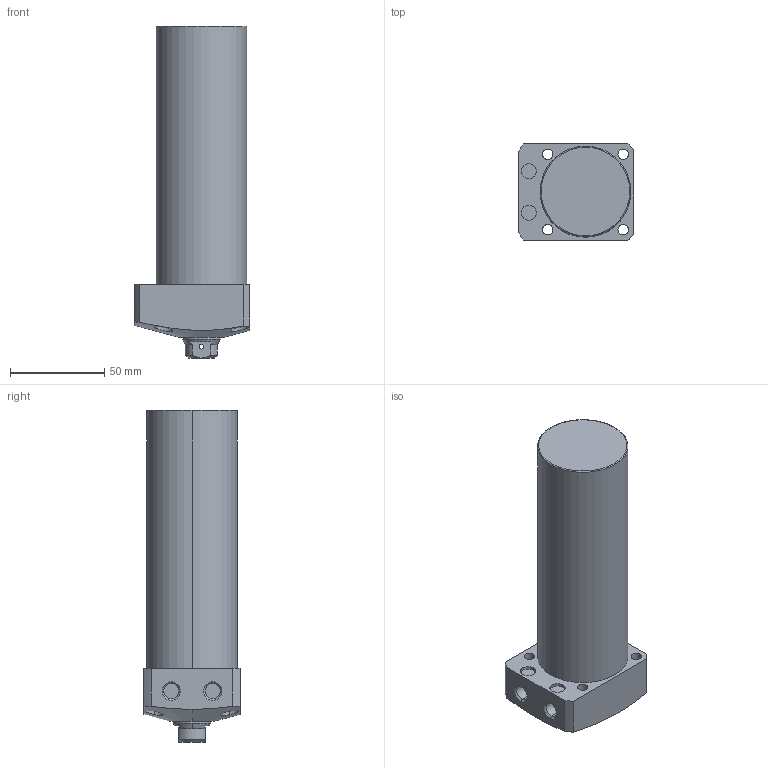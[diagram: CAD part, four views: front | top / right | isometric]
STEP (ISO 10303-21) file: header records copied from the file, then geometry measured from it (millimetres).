
FILE_DESCRIPTION (( 'STEP AP203' ), '1' );
FILE_NAME ('CLL-048CB-110.STEP', '2019-12-21T07:41:41', ( '' ), ( '' ), 'SwSTEP 2.0', 'SolidWorks 2015', '' );
FILE_SCHEMA (( 'CONFIG_CONTROL_DESIGN' ));
Length unit declared in the file: millimetre
Products named in the file (1): CLL-048CB-110
Bounding box: 61 x 51 x 176 mm (x, y, z)
Volume: 322073.8 mm3; surface area: 35474.1 mm2
Topology: 1 solids, 1 shells, 78 faces, 182 edges, 115 vertices
Faces by surface type: cylinder 39, plane 22, cone 15, torus 2
Entity records: 2751 total; most frequent: CARTESIAN_POINT 852, DIRECTION 394, ORIENTED_EDGE 360, EDGE_CURVE 180, AXIS2_PLACEMENT_3D 163, VERTEX_POINT 115, EDGE_LOOP 101, CIRCLE 84
